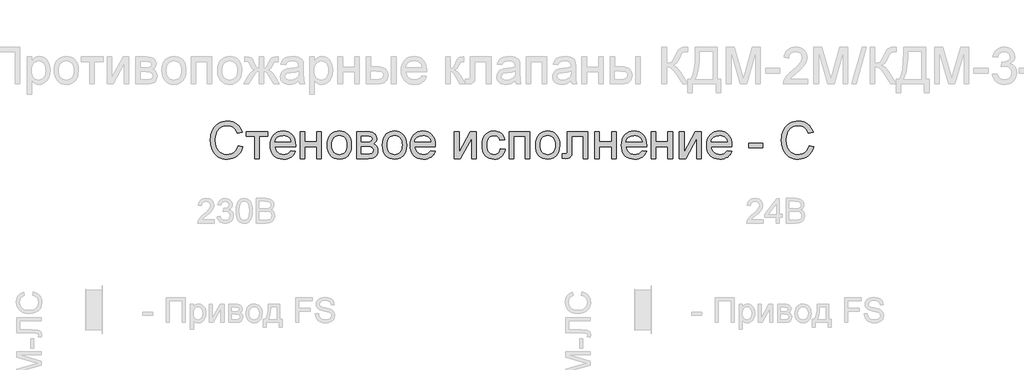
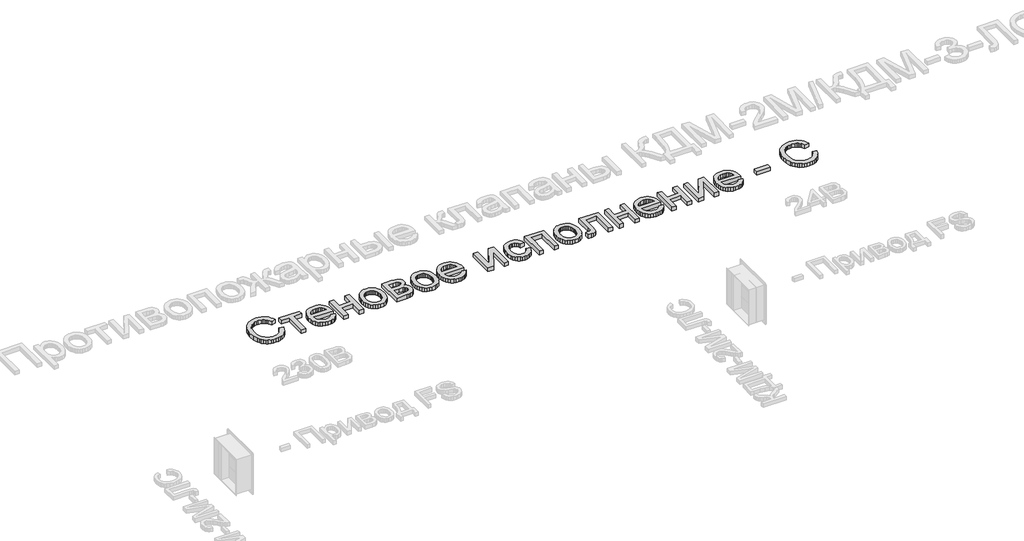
# One storey, part 16 of 23: 1 proxy.
"""IFC4 building model written with IfcOpenShell, lengths in millimetres."""

from ifc_helpers import new_model, si_unit, origin, origin_with_axes, place, context, project, spatial, polyline, outline, extrude, element, save

model = new_model("IFC4")

# Units and contexts
model_context = context("Model", 3, world=origin())
ifc_project = project(units=[si_unit("LENGTHUNIT", "METRE", prefix="MILLI")], contexts=[model_context])

# Site, building, storey
site = spatial("IfcSite", under=ifc_project)
building = spatial("IfcBuilding", under=site)
storey = spatial("IfcBuildingStorey", under=building, Name="Этаж 01", Elevation=0.0)

# Proxy
placement = place(None, origin())
element("IfcBuildingElementProxy", 1, Name="450 мм Arial", ObjectType="450 мм Arial", at=placement, inside=storey, context=model_context, shape_type="SweptSolid", body=[
    extrude(outline(polyline([(18964.7127557, -12963.9152821), (19020.9197736, -12978.4061539), (19009.797755, -13013.3605792), (18994.9844065, -13043.9032477), (18976.4797278, -13070.0341592), (18954.2837192, -13091.7533139), (18928.8972487, -13108.8274306), (18900.8211846, -13121.0232282), (18870.0555269, -13128.3407068), (18836.6002756, -13130.7798663), (18802.3251098, -13128.9342013), (18771.4050749, -13123.3972063), (18743.8401709, -13114.1688812), (18719.6303976, -13101.2492261), (18698.4429866, -13084.8303548), (18679.9451692, -13065.1043811), (18664.1369454, -13042.0713051), (18651.0183153, -13015.7311267), (18633.3575653, -12957.685305), (18627.4706486, -12895.5227584), (18629.1344916, -12861.6215285), (18634.1260206, -12829.9570525), (18642.4452356, -12800.5293304), (18654.0921366, -12773.3383622), (18668.8059976, -12748.833557), (18686.3260928, -12727.4643239), (18706.6524222, -12709.230663), (18729.7849858, -12694.1325743), (18754.9381752, -12682.2935595), (18781.326382, -12673.8371204), (18808.9496064, -12668.7632569), (18837.8078482, -12667.071969), (18869.9560394, -12669.2606945), (18899.4352206, -12675.8268708), (18926.2453918, -12686.7704979), (18950.3865529, -12702.0915759), (18971.460754, -12721.3852934), (18989.070045, -12744.2468393), (19003.2144257, -12770.6762134), (19013.8938963, -12800.6734158), (18957.6868785, -12814.0664942), (18938.2010471, -12773.0776363), (18925.7822602, -12757.4100673), (18911.5795592, -12744.9604049), (18895.5106095, -12735.4747845), (18877.4930767, -12728.6993414), (18835.6122616, -12723.2789869), (18810.3973213, -12724.7815915), (18787.3368005, -12729.2894053), (18766.430699, -12736.8024283), (18747.6790169, -12747.3206606), (18731.3184658, -12760.3706786), (18717.5857576, -12775.4790591), (18706.480892, -12792.6458021), (18698.0038693, -12811.8709076), (18687.2592172, -12853.0107122), (18683.6776665, -12895.4129791), (18687.9178932, -12947.338603), (18700.6385732, -12992.2383497), (18710.2991544, -13011.6246935), (18722.3199912, -13028.3969171), (18736.7010837, -13042.5550203), (18753.4424318, -13054.0990031), (18790.7536822, -13069.4543871), (18831.0015297, -13074.5728485), (18855.4377228, -13072.8301016), (18877.9184716, -13067.6018609), (18898.443776, -13058.8881265), (18917.0136361, -13046.6888982), (18933.1889345, -13031.0590659), (18946.5305539, -13012.053519), (18957.0384943, -12989.6722578), (18964.7127557, -12963.9152821)])), origin_with_axes(), (0.0, 0.0, 1.0), 50.0),
    extrude(outline(polyline([(19063.075037, -12793.5377592), (19330.0583718, -12793.5377592), (19330.0583718, -12849.7447771), (19224.6702133, -12849.7447771), (19224.6702133, -13123.7539891), (19168.4631954, -13123.7539891), (19168.4631954, -12849.7447771), (19063.075037, -12849.7447771), (19063.075037, -12793.5377592)])), origin_with_axes(), (0.0, 0.0, 1.0), 50.0),
    extrude(outline(polyline([(19610.434785, -13025.3917079), (19665.5440096, -13032.4175851), (19657.0944316, -13054.490092), (19645.6876729, -13073.9416173), (19631.3237335, -13090.7721611), (19614.0026133, -13104.9817234), (19593.9027038, -13116.2684109), (19571.2023964, -13124.3303306), (19545.901691, -13129.1674824), (19518.0005877, -13130.7798663), (19483.1250663, -13127.9976464), (19452.0506542, -13119.6509866), (19424.7773514, -13105.7398869), (19401.3051581, -13086.2643473), (19382.4299742, -13061.7664033), (19368.9477, -13032.7880903), (19360.8583355, -12999.3294084), (19358.1618807, -12961.3903574), (19360.8857804, -12922.16483), (19369.0574794, -12887.5912017), (19382.6769777, -12857.6694726), (19401.7442754, -12832.3996427), (19425.1547179, -12812.3237474), (19451.8036507, -12797.9838221), (19481.6910737, -12789.379867), (19514.8169871, -12786.511882), (19546.8759826, -12789.3730058), (19575.868018, -12797.9563773), (19601.7930933, -12812.2619965), (19624.6512085, -12832.2898633), (19643.3102643, -12857.5048036), (19656.6381613, -12887.371643), (19664.6348995, -12921.8903816), (19667.3004789, -12961.0610195), (19666.9711409, -12976.2105672), (19414.3688985, -12976.2105672), (19417.6245418, -12998.639857), (19424.0980918, -13018.2834961), (19433.7895484, -13035.1414848), (19446.6989117, -13049.2138228), (19462.112616, -13060.3083966), (19479.3170957, -13068.2330921), (19498.3123507, -13072.9879094), (19519.098381, -13074.5728485), (19549.0132489, -13071.6362514), (19574.2076056, -13062.82646), (19594.6814509, -13047.5945777), (19610.434785, -13025.3917079)]), holes=[polyline([(19414.3688985, -12920.0035494), (19611.093461, -12920.0035494), (19603.4912423, -12890.3082401), (19588.588698, -12869.0659395), (19573.2607588, -12857.5391096), (19555.8195675, -12849.3056597), (19536.265124, -12844.3655898), (19514.5974284, -12842.7188998), (19476.7098366, -12847.9745853), (19445.3815598, -12863.7416419), (19432.9250362, -12875.1415393), (19423.6040848, -12888.3184898), (19417.4187056, -12903.2724931), (19414.3688985, -12920.0035494)])]), origin_with_axes(), (0.0, 0.0, 1.0), 50.0),
    extrude(outline(polyline([(19723.5074967, -12793.5377592), (19779.7145146, -12793.5377592), (19779.7145146, -12920.0035494), (19927.2579364, -12920.0035494), (19927.2579364, -12793.5377592), (19983.4649543, -12793.5377592), (19983.4649543, -13123.7539891), (19927.2579364, -13123.7539891), (19927.2579364, -12976.2105672), (19779.7145146, -12976.2105672), (19779.7145146, -13123.7539891), (19723.5074967, -13123.7539891), (19723.5074967, -12793.5377592)])), origin_with_axes(), (0.0, 0.0, 1.0), 50.0),
    extrude(outline(polyline([(20053.7237266, -12958.6458742), (20056.7632419, -12915.8799632), (20065.8817876, -12879.0284138), (20081.0793638, -12848.0912259), (20102.3559706, -12823.0683995), (20123.7766627, -12807.0749231), (20147.4203863, -12795.6510114), (20173.2871413, -12788.7966643), (20201.3769278, -12786.511882), (20232.3861584, -12789.2941019), (20260.4244859, -12797.6407617), (20285.4919101, -12811.5518614), (20307.5884313, -12831.027401), (20325.6231171, -12855.4087045), (20338.5050356, -12884.0370958), (20346.2341866, -12916.9125751), (20348.8105703, -12954.0351422), (20344.2547281, -13010.8185016), (20338.5599252, -13034.1260259), (20330.5872013, -13054.0441134), (20308.20594, -13086.4152939), (20277.5088944, -13110.635359), (20241.0484338, -13125.7437395), (20201.3769278, -13130.7798663), (20169.9148574, -13128.0079382), (20141.6158041, -13119.6921538), (20116.4797677, -13105.8325132), (20094.5067484, -13086.4290163), (20076.6641763, -13061.8110012), (20063.919482, -13032.3078058), (20056.2726655, -12997.9194301), (20053.7237266, -12958.6458742)]), holes=[polyline([(20109.9307445, -12958.5360948), (20111.5568508, -12985.7991057), (20116.4351699, -13009.4050927), (20124.5657016, -13029.3540556), (20135.9484461, -13045.6459946), (20149.7943643, -13058.3014931), (20165.3144173, -13067.341135), (20182.5086052, -13072.7649201), (20201.3769278, -13074.5728485), (20220.1491935, -13072.7546283), (20237.2747693, -13067.2999677), (20252.7536551, -13058.2088668), (20266.5858509, -13045.4813256), (20277.9685953, -13029.0281482), (20286.0991271, -13008.7601391), (20290.9774461, -12984.6772982), (20292.6035525, -12956.7796255), (20290.9671543, -12930.3811268), (20286.0579598, -12907.3926486), (20277.875969, -12887.814191), (20266.4211819, -12871.6457537), (20252.537527, -12858.9902552), (20237.068933, -12849.9506133), (20220.0154, -12844.5268282), (20201.3769278, -12842.7188998), (20182.5086052, -12844.519967), (20165.3144173, -12849.9231685), (20149.7943643, -12858.9285043), (20135.9484461, -12871.5359744), (20124.5657016, -12887.7798849), (20116.4351699, -12907.6945418), (20111.5568508, -12931.2799451), (20109.9307445, -12958.5360948)])]), origin_with_axes(), (0.0, 0.0, 1.0), 50.0),
    extrude(outline(polyline([(20412.0434654, -12793.5377592), (20535.8745516, -12793.5377592), (20575.6832818, -12795.4177303), (20603.7730683, -12801.0576434), (20624.4390275, -12811.7062386), (20641.9762758, -12828.6122557), (20653.9559453, -12850.6367341), (20657.9491685, -12876.6407133), (20655.5340232, -12897.5948433), (20648.2885873, -12915.6672658), (20636.185416, -12930.9403153), (20619.1970644, -12943.4963264), (20640.0002478, -12955.1741028), (20656.9611545, -12973.9600909), (20668.2409809, -12998.3722698), (20672.000923, -13026.9286185), (20668.8790732, -13049.9342497), (20662.477566, -13069.7700027), (20652.7964011, -13086.4358775), (20639.8355788, -13099.9318741), (20623.5745153, -13110.3540494), (20603.992627, -13117.7984603), (20581.0899139, -13122.2651069), (20554.866376, -13123.7539891), (20412.0434654, -13123.7539891), (20412.0434654, -12793.5377592)]), holes=[polyline([(20468.2504833, -13067.5469712), (20537.1919036, -13067.5469712), (20574.7638799, -13065.0083242), (20598.3389914, -13057.3923831), (20610.9910594, -13043.5464648), (20615.7939051, -13022.3178866), (20613.3924822, -13008.2524097), (20606.1882136, -12995.2572813), (20595.1279459, -12985.0889707), (20581.158526, -12979.5039472), (20531.702937, -12976.2105672), (20468.2504833, -12976.2105672), (20468.2504833, -13067.5469712)]), polyline([(20468.2504833, -12920.0035494), (20523.7988251, -12920.0035494), (20569.6316961, -12917.1492868), (20591.9169005, -12905.7322363), (20599.2858381, -12896.2912137), (20601.7421507, -12885.0937219), (20597.4333119, -12868.324929), (20584.5067956, -12857.5391096), (20561.1512428, -12851.6933602), (20525.5552944, -12849.7447771), (20468.2504833, -12849.7447771), (20468.2504833, -12920.0035494)])]), origin_with_axes(), (0.0, 0.0, 1.0), 50.0),
    extrude(outline(polyline([(20728.2079408, -12958.6458742), (20731.2474561, -12915.8799632), (20740.3660018, -12879.0284138), (20755.5635781, -12848.0912259), (20776.8401848, -12823.0683995), (20798.2608769, -12807.0749231), (20821.9046005, -12795.6510114), (20847.7713555, -12788.7966643), (20875.861142, -12786.511882), (20906.8703726, -12789.2941019), (20934.9087001, -12797.6407617), (20959.9761244, -12811.5518614), (20982.0726455, -12831.027401), (21000.1073313, -12855.4087045), (21012.9892498, -12884.0370958), (21020.7184009, -12916.9125751), (21023.2947846, -12954.0351422), (21018.7389423, -13010.8185016), (21013.0441395, -13034.1260259), (21005.0714155, -13054.0441134), (20982.6901542, -13086.4152939), (20951.9931086, -13110.635359), (20915.532648, -13125.7437395), (20875.861142, -13130.7798663), (20844.3990717, -13128.0079382), (20816.1000183, -13119.6921538), (20790.9639819, -13105.8325132), (20768.9909626, -13086.4290163), (20751.1483906, -13061.8110012), (20738.4036963, -13032.3078058), (20730.7568797, -12997.9194301), (20728.2079408, -12958.6458742)]), holes=[polyline([(20784.4149587, -12958.5360948), (20786.041065, -12985.7991057), (20790.9193841, -13009.4050927), (20799.0499159, -13029.3540556), (20810.4326603, -13045.6459946), (20824.2785785, -13058.3014931), (20839.7986316, -13067.341135), (20856.9928194, -13072.7649201), (20875.861142, -13074.5728485), (20894.6334078, -13072.7546283), (20911.7589835, -13067.2999677), (20927.2378693, -13058.2088668), (20941.0700651, -13045.4813256), (20952.4528095, -13029.0281482), (20960.5833413, -13008.7601391), (20965.4616604, -12984.6772982), (20967.0877667, -12956.7796255), (20965.4513685, -12930.3811268), (20960.5421741, -12907.3926486), (20952.3601832, -12887.814191), (20940.9053961, -12871.6457537), (20927.0217412, -12858.9902552), (20911.5531473, -12849.9506133), (20894.4996142, -12844.5268282), (20875.861142, -12842.7188998), (20856.9928194, -12844.519967), (20839.7986316, -12849.9231685), (20824.2785785, -12858.9285043), (20810.4326603, -12871.5359744), (20799.0499159, -12887.7798849), (20790.9193841, -12907.6945418), (20786.041065, -12931.2799451), (20784.4149587, -12958.5360948)])]), origin_with_axes(), (0.0, 0.0, 1.0), 50.0),
    extrude(outline(polyline([(21317.7229523, -13025.3917079), (21372.8321768, -13032.4175851), (21364.3825989, -13054.490092), (21352.9758402, -13073.9416173), (21338.6119008, -13090.7721611), (21321.2907806, -13104.9817234), (21301.1908711, -13116.2684109), (21278.4905636, -13124.3303306), (21253.1898582, -13129.1674824), (21225.288755, -13130.7798663), (21190.4132335, -13127.9976464), (21159.3388214, -13119.6509866), (21132.0655187, -13105.7398869), (21108.5933253, -13086.2643473), (21089.7181415, -13061.7664033), (21076.2358673, -13032.7880903), (21068.1465028, -12999.3294084), (21065.4500479, -12961.3903574), (21068.1739476, -12922.16483), (21076.3456466, -12887.5912017), (21089.965145, -12857.6694726), (21109.0324427, -12832.3996427), (21132.4428851, -12812.3237474), (21159.0918179, -12797.9838221), (21188.979241, -12789.379867), (21222.1051543, -12786.511882), (21254.1641498, -12789.3730058), (21283.1561852, -12797.9563773), (21309.0812605, -12812.2619965), (21331.9393758, -12832.2898633), (21350.5984315, -12857.5048036), (21363.9263285, -12887.371643), (21371.9230667, -12921.8903816), (21374.5886461, -12961.0610195), (21374.2593081, -12976.2105672), (21121.6570658, -12976.2105672), (21124.9127091, -12998.639857), (21131.3862591, -13018.2834961), (21141.0777157, -13035.1414848), (21153.987079, -13049.2138228), (21169.4007833, -13060.3083966), (21186.6052629, -13068.2330921), (21205.6005179, -13072.9879094), (21226.3865483, -13074.5728485), (21256.3014162, -13071.6362514), (21281.4957728, -13062.82646), (21301.9696182, -13047.5945777), (21317.7229523, -13025.3917079)]), holes=[polyline([(21121.6570658, -12920.0035494), (21318.3816283, -12920.0035494), (21310.7794096, -12890.3082401), (21295.8768653, -12869.0659395), (21280.5489261, -12857.5391096), (21263.1077348, -12849.3056597), (21243.5532913, -12844.3655898), (21221.8855957, -12842.7188998), (21183.9980038, -12847.9745853), (21152.669727, -12863.7416419), (21140.2132035, -12875.1415393), (21130.8922521, -12888.3184898), (21124.7068729, -12903.2724931), (21121.6570658, -12920.0035494)])]), origin_with_axes(), (0.0, 0.0, 1.0), 50.0),
    extrude(outline(polyline([(21606.4425948, -12793.5377592), (21662.6496126, -12793.5377592), (21662.6496126, -13045.3715462), (21800.752012, -12793.5377592), (21873.4259296, -12793.5377592), (21873.4259296, -13123.7539891), (21817.2189117, -13123.7539891), (21817.2189117, -12873.4571127), (21679.994747, -13123.7539891), (21606.4425948, -13123.7539891), (21606.4425948, -12793.5377592)])), origin_with_axes(), (0.0, 0.0, 1.0), 50.0),
    extrude(outline(polyline([(22168.5127733, -13004.3140762), (22224.7197911, -13011.3399534), (22218.6064546, -13037.8619538), (22209.0487915, -13061.3307166), (22196.0468019, -13081.7462417), (22179.6004858, -13099.1085291), (22160.4028252, -13112.9647391), (22139.1468021, -13122.862032), (22115.8324165, -13128.8004078), (22090.4596684, -13130.7798663), (22058.9358472, -13128.01823), (22030.6710999, -13119.7333211), (22005.6654265, -13105.9251395), (21983.918827, -13086.5936853), (21966.3163972, -13062.1026025), (21953.7432332, -13032.8155352), (21946.1993347, -12998.7324833), (21943.6847019, -12959.8534468), (21947.9798182, -12909.8352388), (21960.8651673, -12866.4861252), (21970.5806382, -12847.7310124), (21982.5465853, -12831.4802407), (21996.7630088, -12817.7338101), (22013.2299085, -12806.4917204), (22049.9373726, -12791.5068416), (22089.6912131, -12786.511882), (22114.6282744, -12788.227184), (22137.1844965, -12793.3730902), (22157.3598793, -12801.9496005), (22175.1544229, -12813.9567149), (22190.266234, -12829.1199851), (22202.3934196, -12847.1649628), (22211.5359795, -12868.0916479), (22217.6939139, -12891.9000405), (22161.4868961, -12898.9259177), (22151.2911406, -12874.4039595), (22135.4143048, -12856.825544), (22114.7346232, -12846.2455609), (22090.1303304, -12842.7188998), (22071.0321573, -12844.4547855), (22053.807094, -12849.6624426), (22038.4551406, -12858.341871), (22024.976297, -12870.4930708), (22014.0017945, -12886.3973515), (22006.1628641, -12906.3360226), (22001.4595058, -12930.3090841), (21999.8917197, -12958.3165362), (22001.4251998, -12986.7459525), (22006.0256399, -13010.996893), (22013.6930401, -13031.0693577), (22024.4274004, -13046.9633465), (22037.6386568, -13059.0425036), (22052.7367456, -13067.670473), (22069.7216665, -13072.8472546), (22088.5934198, -13074.5728485), (22117.6986651, -13070.2640097), (22141.5619474, -13057.3374934), (22158.9208042, -13035.4639615), (22168.5127733, -13004.3140762)])), origin_with_axes(), (0.0, 0.0, 1.0), 50.0),
    extrude(outline(polyline([(22273.9009318, -12793.5377592), (22526.8325121, -12793.5377592), (22526.8325121, -13123.7539891), (22470.6254943, -13123.7539891), (22470.6254943, -12849.7447771), (22330.1079496, -12849.7447771), (22330.1079496, -13123.7539891), (22273.9009318, -13123.7539891), (22273.9009318, -12793.5377592)])), origin_with_axes(), (0.0, 0.0, 1.0), 50.0),
    extrude(outline(polyline([(22597.0912844, -12958.6458742), (22600.1307997, -12915.8799632), (22609.2493454, -12879.0284138), (22624.4469216, -12848.0912259), (22645.7235284, -12823.0683995), (22667.1442205, -12807.0749231), (22690.7879441, -12795.6510114), (22716.6546991, -12788.7966643), (22744.7444856, -12786.511882), (22775.7537162, -12789.2941019), (22803.7920437, -12797.6407617), (22828.859468, -12811.5518614), (22850.9559891, -12831.027401), (22868.9906749, -12855.4087045), (22881.8725934, -12884.0370958), (22889.6017445, -12916.9125751), (22892.1781281, -12954.0351422), (22887.6222859, -13010.8185016), (22881.927483, -13034.1260259), (22873.9547591, -13054.0441134), (22851.5734978, -13086.4152939), (22820.8764522, -13110.635359), (22784.4159916, -13125.7437395), (22744.7444856, -13130.7798663), (22713.2824153, -13128.0079382), (22684.9833619, -13119.6921538), (22659.8473255, -13105.8325132), (22637.8743062, -13086.4290163), (22620.0317342, -13061.8110012), (22607.2870399, -13032.3078058), (22599.6402233, -12997.9194301), (22597.0912844, -12958.6458742)]), holes=[polyline([(22653.2983023, -12958.5360948), (22654.9244086, -12985.7991057), (22659.8027277, -13009.4050927), (22667.9332594, -13029.3540556), (22679.3160039, -13045.6459946), (22693.1619221, -13058.3014931), (22708.6819751, -13067.341135), (22725.876163, -13072.7649201), (22744.7444856, -13074.5728485), (22763.5167513, -13072.7546283), (22780.6423271, -13067.2999677), (22796.1212129, -13058.2088668), (22809.9534087, -13045.4813256), (22821.3361531, -13029.0281482), (22829.4666849, -13008.7601391), (22834.3450039, -12984.6772982), (22835.9711103, -12956.7796255), (22834.3347121, -12930.3811268), (22829.4255176, -12907.3926486), (22821.2435268, -12887.814191), (22809.7887397, -12871.6457537), (22795.9050848, -12858.9902552), (22780.4364908, -12849.9506133), (22763.3829578, -12844.5268282), (22744.7444856, -12842.7188998), (22725.876163, -12844.519967), (22708.6819751, -12849.9231685), (22693.1619221, -12858.9285043), (22679.3160039, -12871.5359744), (22667.9332594, -12887.7798849), (22659.8027277, -12907.6945418), (22654.9244086, -12931.2799451), (22653.2983023, -12958.5360948)])]), origin_with_axes(), (0.0, 0.0, 1.0), 50.0),
    extrude(outline(polyline([(22983.5145322, -12793.5377592), (23236.4461125, -12793.5377592), (23236.4461125, -13123.4246511), (23180.2390946, -13123.4246511), (23180.2390946, -12849.7447771), (23039.72155, -12849.7447771), (23039.72155, -13007.2781181), (23035.9341631, -13079.9520357), (23028.8396737, -13096.4052131), (23015.1309797, -13110.635359), (22994.3277963, -13120.4743316), (22965.9498391, -13123.7539891), (22920.2816371, -13120.8997265), (22920.2816371, -13067.5469712), (22945.421104, -13067.5469712), (22970.8350193, -13064.0889223), (22977.1884982, -13059.6154145), (22980.9896075, -13053.1109891), (22983.5145322, -13004.0945175), (22983.5145322, -12793.5377592)])), origin_with_axes(), (0.0, 0.0, 1.0), 50.0),
    extrude(outline(polyline([(23320.7566393, -12793.5377592), (23376.9636571, -12793.5377592), (23376.9636571, -12920.0035494), (23524.507079, -12920.0035494), (23524.507079, -12793.5377592), (23580.7140968, -12793.5377592), (23580.7140968, -13123.7539891), (23524.507079, -13123.7539891), (23524.507079, -12976.2105672), (23376.9636571, -12976.2105672), (23376.9636571, -13123.7539891), (23320.7566393, -13123.7539891), (23320.7566393, -12793.5377592)])), origin_with_axes(), (0.0, 0.0, 1.0), 50.0),
    extrude(outline(polyline([(23896.2198963, -13025.3917079), (23951.3291208, -13032.4175851), (23942.8795429, -13054.490092), (23931.4727842, -13073.9416173), (23917.1088447, -13090.7721611), (23899.7877245, -13104.9817234), (23879.687815, -13116.2684109), (23856.9875076, -13124.3303306), (23831.6868022, -13129.1674824), (23803.7856989, -13130.7798663), (23768.9101775, -13127.9976464), (23737.8357654, -13119.6509866), (23710.5624627, -13105.7398869), (23687.0902693, -13086.2643473), (23668.2150854, -13061.7664033), (23654.7328113, -13032.7880903), (23646.6434468, -12999.3294084), (23643.9469919, -12961.3903574), (23646.6708916, -12922.16483), (23654.8425906, -12887.5912017), (23668.4620889, -12857.6694726), (23687.5293866, -12832.3996427), (23710.9398291, -12812.3237474), (23737.5887619, -12797.9838221), (23767.476185, -12789.379867), (23800.6020983, -12786.511882), (23832.6610938, -12789.3730058), (23861.6531292, -12797.9563773), (23887.5782045, -12812.2619965), (23910.4363197, -12832.2898633), (23929.0953755, -12857.5048036), (23942.4232725, -12887.371643), (23950.4200107, -12921.8903816), (23953.0855901, -12961.0610195), (23952.7562521, -12976.2105672), (23700.1540098, -12976.2105672), (23703.4096531, -12998.639857), (23709.883203, -13018.2834961), (23719.5746597, -13035.1414848), (23732.484023, -13049.2138228), (23747.8977273, -13060.3083966), (23765.1022069, -13068.2330921), (23784.0974619, -13072.9879094), (23804.8834923, -13074.5728485), (23834.7983602, -13071.6362514), (23859.9927168, -13062.82646), (23880.4665622, -13047.5945777), (23896.2198963, -13025.3917079)]), holes=[polyline([(23700.1540098, -12920.0035494), (23896.8785723, -12920.0035494), (23889.2763535, -12890.3082401), (23874.3738092, -12869.0659395), (23859.0458701, -12857.5391096), (23841.6046787, -12849.3056597), (23822.0502353, -12844.3655898), (23800.3825397, -12842.7188998), (23762.4949478, -12847.9745853), (23731.166671, -12863.7416419), (23718.7101474, -12875.1415393), (23709.3891961, -12888.3184898), (23703.2038168, -12903.2724931), (23700.1540098, -12920.0035494)])]), origin_with_axes(), (0.0, 0.0, 1.0), 50.0),
    extrude(outline(polyline([(24009.292608, -12793.5377592), (24065.4996258, -12793.5377592), (24065.4996258, -12920.0035494), (24213.0430477, -12920.0035494), (24213.0430477, -12793.5377592), (24269.2500655, -12793.5377592), (24269.2500655, -13123.7539891), (24213.0430477, -13123.7539891), (24213.0430477, -12976.2105672), (24065.4996258, -12976.2105672), (24065.4996258, -13123.7539891), (24009.292608, -13123.7539891), (24009.292608, -12793.5377592)])), origin_with_axes(), (0.0, 0.0, 1.0), 50.0),
    extrude(outline(polyline([(24353.5605923, -12793.5377592), (24409.7676102, -12793.5377592), (24409.7676102, -13045.3715462), (24547.8700095, -12793.5377592), (24620.5439271, -12793.5377592), (24620.5439271, -13123.7539891), (24564.3369092, -13123.7539891), (24564.3369092, -12873.4571127), (24427.1127446, -13123.7539891), (24353.5605923, -13123.7539891), (24353.5605923, -12793.5377592)])), origin_with_axes(), (0.0, 0.0, 1.0), 50.0),
    extrude(outline(polyline([(24936.0497265, -13025.3917079), (24991.1589511, -13032.4175851), (24982.7093731, -13054.490092), (24971.3026144, -13073.9416173), (24956.938675, -13090.7721611), (24939.6175548, -13104.9817234), (24919.5176453, -13116.2684109), (24896.8173378, -13124.3303306), (24871.5166325, -13129.1674824), (24843.6155292, -13130.7798663), (24808.7400077, -13127.9976464), (24777.6655957, -13119.6509866), (24750.3922929, -13105.7398869), (24726.9200996, -13086.2643473), (24708.0449157, -13061.7664033), (24694.5626415, -13032.7880903), (24686.473277, -12999.3294084), (24683.7768222, -12961.3903574), (24686.5007219, -12922.16483), (24694.6724209, -12887.5912017), (24708.2919192, -12857.6694726), (24727.3592169, -12832.3996427), (24750.7696594, -12812.3237474), (24777.4185922, -12797.9838221), (24807.3060152, -12789.379867), (24840.4319286, -12786.511882), (24872.4909241, -12789.3730058), (24901.4829594, -12797.9563773), (24927.4080348, -12812.2619965), (24950.26615, -12832.2898633), (24968.9252058, -12857.5048036), (24982.2531028, -12887.371643), (24990.249841, -12921.8903816), (24992.9154204, -12961.0610195), (24992.5860824, -12976.2105672), (24739.98384, -12976.2105672), (24743.2394833, -12998.639857), (24749.7130333, -13018.2834961), (24759.4044899, -13035.1414848), (24772.3138532, -13049.2138228), (24787.7275575, -13060.3083966), (24804.9320372, -13068.2330921), (24823.9272922, -13072.9879094), (24844.7133225, -13074.5728485), (24874.6281904, -13071.6362514), (24899.8225471, -13062.82646), (24920.2963924, -13047.5945777), (24936.0497265, -13025.3917079)]), holes=[polyline([(24739.98384, -12920.0035494), (24936.7084025, -12920.0035494), (24929.1061838, -12890.3082401), (24914.2036395, -12869.0659395), (24898.8757003, -12857.5391096), (24881.434509, -12849.3056597), (24861.8800655, -12844.3655898), (24840.2123699, -12842.7188998), (24802.324778, -12847.9745853), (24770.9965013, -12863.7416419), (24758.5399777, -12875.1415393), (24749.2190263, -12888.3184898), (24743.0336471, -12903.2724931), (24739.98384, -12920.0035494)])]), origin_with_axes(), (0.0, 0.0, 1.0), 50.0),
    extrude(outline(polyline([(25196.6658601, -12990.2623217), (25196.6658601, -12934.0553038), (25372.3127909, -12934.0553038), (25372.3127909, -12990.2623217), (25196.6658601, -12990.2623217)])), origin_with_axes(), (0.0, 0.0, 1.0), 50.0),
    extrude(outline(polyline([(25934.3829694, -12963.9152821), (25990.5899872, -12978.4061539), (25979.4679687, -13013.3605792), (25964.6546201, -13043.9032477), (25946.1499415, -13070.0341592), (25923.9539329, -13091.7533139), (25898.5674624, -13108.8274306), (25870.4913983, -13121.0232282), (25839.7257406, -13128.3407068), (25806.2704892, -13130.7798663), (25771.9953235, -13128.9342013), (25741.0752886, -13123.3972063), (25713.5103845, -13114.1688812), (25689.3006113, -13101.2492261), (25668.1132003, -13084.8303548), (25649.6153829, -13065.1043811), (25633.8071591, -13042.0713051), (25620.6885289, -13015.7311267), (25603.0277789, -12957.685305), (25597.1408623, -12895.5227584), (25598.8047053, -12861.6215285), (25603.7962343, -12829.9570525), (25612.1154493, -12800.5293304), (25623.7623502, -12773.3383622), (25638.4762113, -12748.833557), (25655.9963065, -12727.4643239), (25676.3226359, -12709.230663), (25699.4551995, -12694.1325743), (25724.6083888, -12682.2935595), (25750.9965957, -12673.8371204), (25778.6198201, -12668.7632569), (25807.4780619, -12667.071969), (25839.6262531, -12669.2606945), (25869.1054343, -12675.8268708), (25895.9156054, -12686.7704979), (25920.0567666, -12702.0915759), (25941.1309677, -12721.3852934), (25958.7402586, -12744.2468393), (25972.8846394, -12770.6762134), (25983.56411, -12800.6734158), (25927.3570922, -12814.0664942), (25907.8712608, -12773.0776363), (25895.4524739, -12757.4100673), (25881.2497728, -12744.9604049), (25865.1808231, -12735.4747845), (25847.1632903, -12728.6993414), (25805.2824753, -12723.2789869), (25780.067535, -12724.7815915), (25757.0070141, -12729.2894053), (25736.1009126, -12736.8024283), (25717.3492305, -12747.3206606), (25700.9886795, -12760.3706786), (25687.2559712, -12775.4790591), (25676.1511057, -12792.6458021), (25667.6740829, -12811.8709076), (25656.9294308, -12853.0107122), (25653.3478801, -12895.4129791), (25657.5881068, -12947.338603), (25670.3087869, -12992.2383497), (25679.9693681, -13011.6246935), (25691.9902049, -13028.3969171), (25706.3712974, -13042.5550203), (25723.1126455, -13054.0990031), (25760.4238958, -13069.4543871), (25800.6717433, -13074.5728485), (25825.1079365, -13072.8301016), (25847.5886852, -13067.6018609), (25868.1139897, -13058.8881265), (25886.6838498, -13046.6888982), (25902.8591482, -13031.0590659), (25916.2007676, -13012.053519), (25926.708708, -12989.6722578), (25934.3829694, -12963.9152821)])), origin_with_axes(), (0.0, 0.0, 1.0), 50.0),
])

save(model, "model.ifc")
